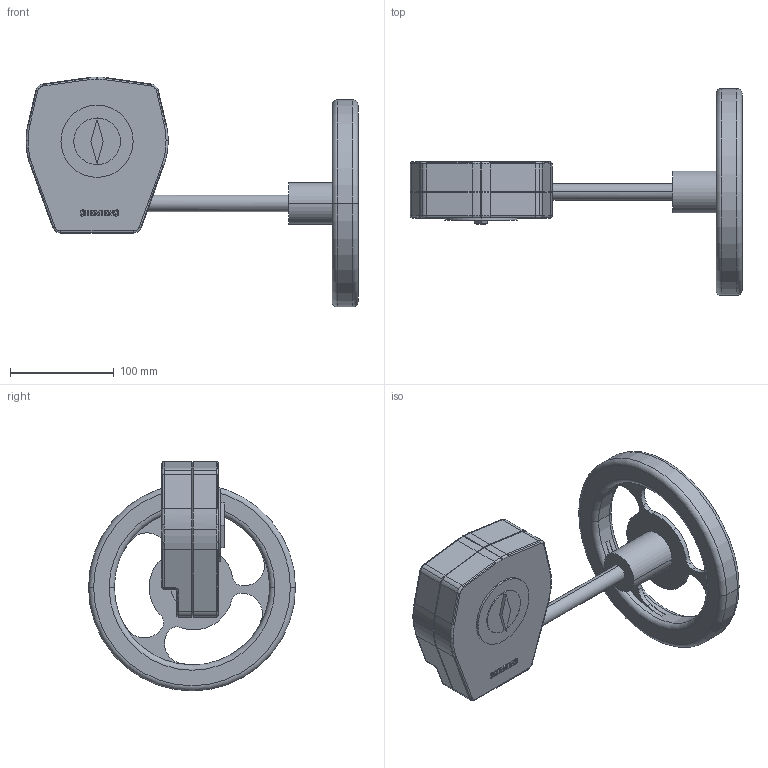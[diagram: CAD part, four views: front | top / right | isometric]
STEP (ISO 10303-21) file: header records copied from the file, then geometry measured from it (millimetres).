
FILE_DESCRIPTION((''),'2;1');
FILE_NAME('ASK46_4.dwg.stp','2006-10-04T11:29:40',(''),(''),'Mechanical Desktop 2006','Mechanical Desktop 2006',', , ');
FILE_SCHEMA(('AUTOMOTIVE_DESIGN { 1 2 10303 214 0 1 1 1 }'));
Length unit declared in the file: millimetre
Products named in the file (1): Product
Bounding box: 320.63 x 200 x 222 mm (x, y, z)
Volume: 1382233.5 mm3; surface area: 186717 mm2
Topology: 13 solids, 13 shells, 372 faces, 995 edges, 678 vertices
Faces by surface type: cylinder 204, plane 113, torus 28, cone 14, bspline 11, sphere 2
Entity records: 11947 total; most frequent: CARTESIAN_POINT 2231, DIRECTION 2193, ORIENTED_EDGE 1926, EDGE_CURVE 963, AXIS2_PLACEMENT_3D 838, VERTEX_POINT 618, VECTOR 517, LINE 517
